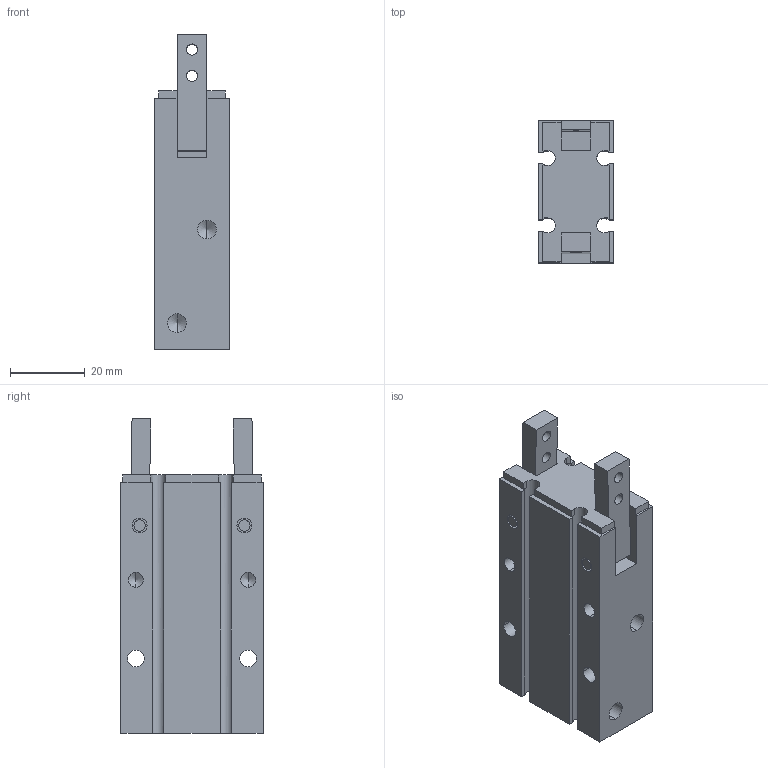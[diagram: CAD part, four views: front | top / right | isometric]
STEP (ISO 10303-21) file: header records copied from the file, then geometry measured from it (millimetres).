
FILE_DESCRIPTION (( 'STEP AP214' ), '1' );
FILE_NAME ('MHY2-16D.step', '2019-01-23T18:35:28', ( '' ), ( '' ), 'SwSTEP 2.0', 'SolidWorks 2018', '' );
FILE_SCHEMA (( 'AUTOMOTIVE_DESIGN' ));
Length unit declared in the file: millimetre
Products named in the file (3): MHY2-16D_MHY2BODY_MHY2-16D; MHY2-16D_MHY2FINGER_MHY2-16D; MHY2-16D
Assembly tree (3 placements, depth 2):
  MHY2-16D
    MHY2-16D_MHY2BODY_MHY2-16D
    MHY2-16D_MHY2FINGER_MHY2-16D  x2
Bounding box: 20 x 38 x 84.04 mm (x, y, z)
Volume: 44929.4 mm3; surface area: 17125.4 mm2
Topology: 3 solids, 3 shells, 156 faces, 412 edges, 258 vertices
Faces by surface type: plane 76, cylinder 60, cone 20
Entity records: 4534 total; most frequent: DIRECTION 748, CARTESIAN_POINT 724, ORIENTED_EDGE 700, EDGE_CURVE 350, AXIS2_PLACEMENT_3D 254, LINE 240, VECTOR 240, VERTEX_POINT 230
